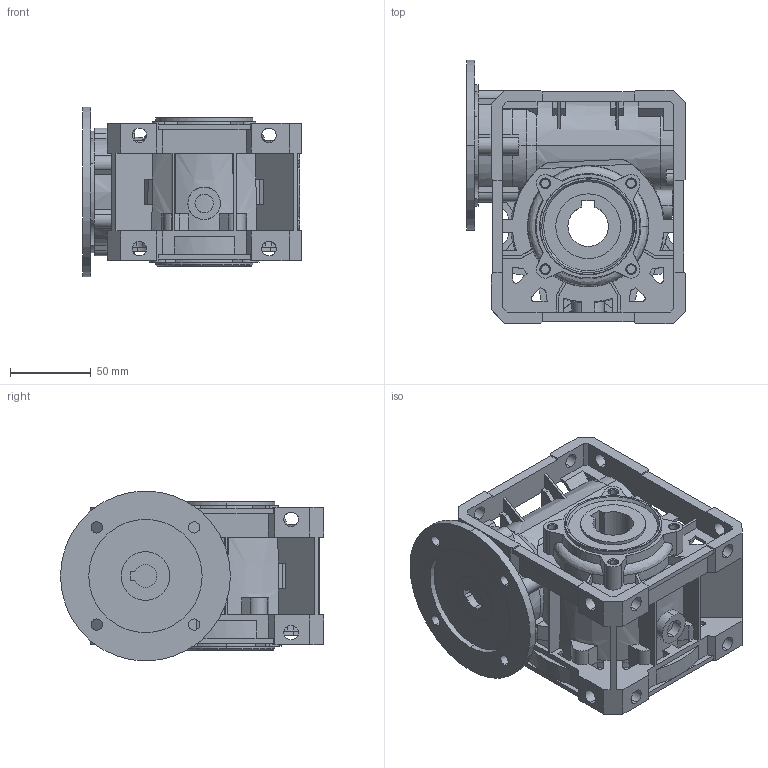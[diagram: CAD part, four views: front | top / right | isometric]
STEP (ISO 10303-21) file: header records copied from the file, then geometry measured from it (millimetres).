
FILE_DESCRIPTION (( 'STEP AP214' ), '1' );
FILE_NAME ('MU 50 NO PAM71B14 NO 0 D25 STANDARD 0 0.step', '2019-01-28T08:34:45', ( '' ), ( '' ), 'SwSTEP 2.0', 'SolidWorks 2015', '' );
FILE_SCHEMA (( 'AUTOMOTIVE_DESIGN' ));
Length unit declared in the file: millimetre
Products named in the file (7): OUTPUT SHAFT U-MU_U-MU 50 D.25; FLANGE FP U-MU 50 - 20099994; PAM MU 50_PAM 71 B14; FAM MU 50_D.105; INPUT SHAFT MU 50_F.14; BODY U-MU 50 - 20139860; MU 50 NO PAM71B14 NO 0 D25 STANDARD 0 0
Assembly tree (6 placements, depth 3):
  MU 50 NO PAM71B14 NO 0 D25 STANDARD 0 0
    BODY U-MU 50 - 20139860
    FLANGE FP U-MU 50 - 20099994
    OUTPUT SHAFT U-MU_U-MU 50 D.25
    PAM MU 50_PAM 71 B14
      FAM MU 50_D.105
      INPUT SHAFT MU 50_F.14
Bounding box: 135 x 162.5 x 105 mm (x, y, z)
Volume: 977078.5 mm3; surface area: 213776.7 mm2
Topology: 13 solids, 16 shells, 1060 faces, 3005 edges, 1970 vertices
Faces by surface type: plane 553, cylinder 309, cone 180, bspline 18
Entity records: 40412 total; most frequent: CARTESIAN_POINT 12248, ORIENTED_EDGE 6010, DIRECTION 5564, EDGE_CURVE 3005, VERTEX_POINT 1970, AXIS2_PLACEMENT_3D 1949, LINE 1666, VECTOR 1666
